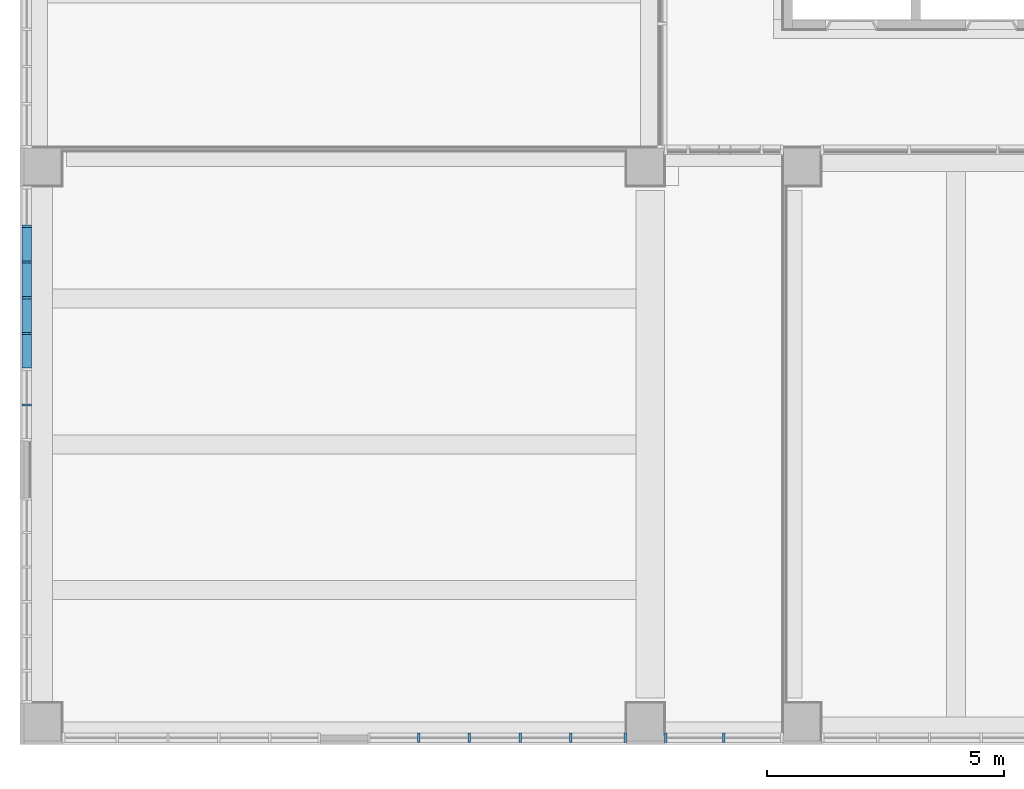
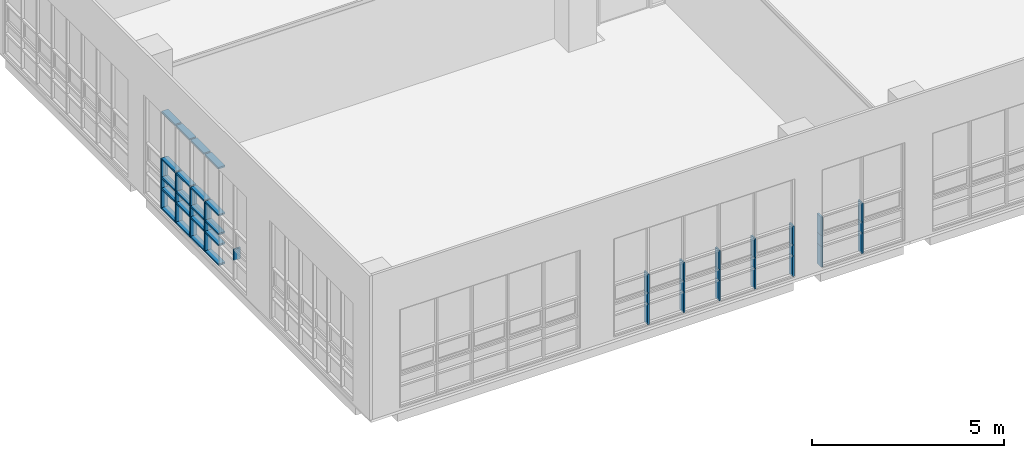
# One storey, part 14 of 74: 54 members, 3 elements without a shape of their own.
"""IFC2X3 building model written with IfcOpenShell, lengths in millimetres."""

from ifc_helpers import new_model, entity, si_unit, converted_unit, derived_unit, direction, frame, origin, origin_2d_with_axis, place, context, subcontext, project, spatial, rectangle, extrude, source, transform, mapped, material, type_object, type_shapes, element, aggregate, save


model = new_model("IFC2X3")

# Units and contexts
model_context = context("Model", 3, precision=0.01, world=origin(), true_north=direction((6.123031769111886e-17, 1.0)))
body_context = subcontext(model_context, "Body", "Model", "MODEL_VIEW")
ifc_project = project(units=[si_unit("LENGTHUNIT", "METRE", prefix="MILLI"), si_unit("AREAUNIT", "SQUARE_METRE"), si_unit("VOLUMEUNIT", "CUBIC_METRE"), converted_unit("PLANEANGLEUNIT", "DEGREE", entity("IfcRatioMeasure", 0.017453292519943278), si_unit("PLANEANGLEUNIT", "RADIAN"), dimensions=[0, 0, 0, 0, 0, 0, 0]), si_unit("MASSUNIT", "GRAM", prefix="KILO"), derived_unit("MASSDENSITYUNIT", [(si_unit("MASSUNIT", "GRAM", prefix="KILO"), 1), (si_unit("LENGTHUNIT", "METRE"), -3)]), derived_unit("MOMENTOFINERTIAUNIT", [(si_unit("LENGTHUNIT", "METRE"), 4)]), si_unit("TIMEUNIT", "SECOND"), si_unit("FREQUENCYUNIT", "HERTZ"), si_unit("THERMODYNAMICTEMPERATUREUNIT", "DEGREE_CELSIUS"), derived_unit("THERMALTRANSMITTANCEUNIT", [(si_unit("MASSUNIT", "GRAM", prefix="KILO"), 1), (si_unit("THERMODYNAMICTEMPERATUREUNIT", "KELVIN"), -1), (si_unit("TIMEUNIT", "SECOND"), -3)]), derived_unit("VOLUMETRICFLOWRATEUNIT", [(si_unit("LENGTHUNIT", "METRE"), 3), (si_unit("TIMEUNIT", "SECOND"), -1)]), derived_unit("MASSFLOWRATEUNIT", [(si_unit("MASSUNIT", "GRAM", prefix="KILO"), 1), (si_unit("TIMEUNIT", "SECOND"), -1)]), derived_unit("ROTATIONALFREQUENCYUNIT", [(si_unit("TIMEUNIT", "SECOND"), -1)]), si_unit("ELECTRICCURRENTUNIT", "AMPERE"), si_unit("ELECTRICVOLTAGEUNIT", "VOLT"), si_unit("POWERUNIT", "WATT"), si_unit("FORCEUNIT", "NEWTON", prefix="KILO"), si_unit("ILLUMINANCEUNIT", "LUX"), si_unit("LUMINOUSFLUXUNIT", "LUMEN"), si_unit("LUMINOUSINTENSITYUNIT", "CANDELA"), derived_unit("USERDEFINED", [(si_unit("MASSUNIT", "GRAM", prefix="KILO"), -1), (si_unit("LENGTHUNIT", "METRE"), -2), (si_unit("TIMEUNIT", "SECOND"), 3), (si_unit("LUMINOUSFLUXUNIT", "LUMEN"), 1)]), derived_unit("SOUNDPOWERUNIT", [(si_unit("MASSUNIT", "GRAM", prefix="KILO"), 1), (si_unit("LENGTHUNIT", "METRE"), 2), (si_unit("TIMEUNIT", "SECOND"), -3)]), derived_unit("SOUNDPRESSUREUNIT", [(si_unit("MASSUNIT", "GRAM", prefix="KILO"), 1), (si_unit("LENGTHUNIT", "METRE"), -1), (si_unit("TIMEUNIT", "SECOND"), -2)]), derived_unit("LINEARVELOCITYUNIT", [(si_unit("LENGTHUNIT", "METRE"), 1), (si_unit("TIMEUNIT", "SECOND"), -1)]), si_unit("PRESSUREUNIT", "PASCAL"), derived_unit("USERDEFINED", [(si_unit("LENGTHUNIT", "METRE"), -2), (si_unit("MASSUNIT", "GRAM", prefix="KILO"), 1), (si_unit("TIMEUNIT", "SECOND"), -2)]), derived_unit("LINEARFORCEUNIT", [(si_unit("MASSUNIT", "GRAM", prefix="KILO"), 1), (si_unit("LENGTHUNIT", "METRE"), 1), (si_unit("TIMEUNIT", "SECOND"), -2), (si_unit("LENGTHUNIT", "METRE"), -1)]), derived_unit("PLANARFORCEUNIT", [(si_unit("MASSUNIT", "GRAM", prefix="KILO"), 1), (si_unit("LENGTHUNIT", "METRE"), 1), (si_unit("TIMEUNIT", "SECOND"), -2), (si_unit("LENGTHUNIT", "METRE"), -2)])], contexts=[model_context])

# Site, building, storey
site_placement = place(None, frame((-14167.972527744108, -657.2125860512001, 0.0)))
site = spatial("IfcSite", under=ifc_project, at=site_placement, Name="Default", CompositionType="ELEMENT")
building_placement = place(site_placement, origin())
building = spatial("IfcBuilding", under=site, at=building_placement, Name="Sample Building", CompositionType="ELEMENT")
storey_placement = place(building_placement, frame((0.0, 0.0, 4800.0)))
storey = spatial("IfcBuildingStorey", under=building, at=storey_placement, Name="지상 2층", CompositionType="ELEMENT", Elevation=4800.000000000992)

# Curtain wall, member
curtain_wall_type = type_object("IfcCurtainWallType", Name="커튼월:CW112-스테인리스 스틸 커튼월", PredefinedType="NOTDEFINED")
curtain_wall_1_placement = place(storey_placement, frame((0.0, 0.0, -4800.0)))
curtain_wall_1 = element("IfcCurtainWall", 1, at=curtain_wall_1_placement, inside=storey, type_object=curtain_wall_type, Name="커튼월:CW112-스테인리스 스틸 커튼월", ObjectType="커튼월:CW112-스테인리스 스틸 커튼월")
ifc_material = material(Name="<Unnamed>")
member_type_1 = type_object("IfcMemberType", Name="직사각형 멀리언:CW200-직사각형 멀리언 50x200mm", PredefinedType="MULLION", material=ifc_material)
shared_shape_1 = source(origin(), body_context, "Body", "SweptSolid", [
    extrude(rectangle(XDim=200.0, YDim=50.0, at=origin_2d_with_axis()), frame((-25.0, 0.0, -650.0), z_axis=(0.0, 0.0, 1.0), x_axis=(0.0, -1.0, 0.0)), (0.0, 0.0, 1.0), 650.0000000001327),
])
type_shapes(member_type_1, [shared_shape_1])
member_1_placement = place(curtain_wall_1_placement, frame((26767.97249113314, 619.7122951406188, 4880.0), z_axis=(0.0, 0.0, -1.0), x_axis=(1.0, 0.0, 0.0)))
member_1 = element("IfcMember", 2, at=member_1_placement, type_object=member_type_1, material=ifc_material, Name="직사각형 멀리언:CW200-직사각형 멀리언 50x200mm", ObjectType="직사각형 멀리언:CW200-직사각형 멀리언 50x200mm", context=body_context, shape_type="MappedRepresentation", body=[
    mapped(shared_shape_1, transform((0.0, 0.0, 0.0), scale=1.0)),
])

# Curtain wall, members
curtain_wall_2_placement = place(storey_placement, frame((0.0, 0.0, -4800.0)))
curtain_wall_2 = element("IfcCurtainWall", 3, at=curtain_wall_2_placement, inside=storey, type_object=curtain_wall_type, Name="커튼월:CW112-스테인리스 스틸 커튼월", ObjectType="커튼월:CW112-스테인리스 스틸 커튼월")
member_type_2 = type_object("IfcMemberType", Name="직사각형 멀리언:CW200-직사각형 멀리언 50x200mm", PredefinedType="MULLION", material=ifc_material)
shared_shape_2 = source(origin(), body_context, "Body", "SweptSolid", [
    extrude(rectangle(XDim=200.0, YDim=50.0, at=origin_2d_with_axis()), frame((0.0, 0.0, -650.0), z_axis=(0.0, 0.0, 1.0), x_axis=(0.0, -1.0, 0.0)), (0.0, 0.0, 1.0), 650.0000000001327),
])
type_shapes(member_type_2, [shared_shape_2])
member_2_placement = place(curtain_wall_2_placement, frame((14130.472570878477, 11403.640846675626, 4880.0), z_axis=(0.0, 0.0, -1.0), x_axis=(0.0, -1.0, 0.0)))
member_2 = element("IfcMember", 4, at=member_2_placement, type_object=member_type_2, material=ifc_material, Name="직사각형 멀리언:CW200-직사각형 멀리언 50x200mm", ObjectType="직사각형 멀리언:CW200-직사각형 멀리언 50x200mm", context=body_context, shape_type="MappedRepresentation", body=[
    mapped(shared_shape_2, transform((0.0, 0.0, 0.0), scale=1.0)),
])
member_3_placement = place(curtain_wall_2_placement, frame((14130.472570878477, 10650.069418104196, 4880.0), z_axis=(0.0, 0.0, -1.0), x_axis=(0.0, -1.0, 0.0)))
member_3 = element("IfcMember", 5, at=member_3_placement, type_object=member_type_2, material=ifc_material, Name="직사각형 멀리언:CW200-직사각형 멀리언 50x200mm", ObjectType="직사각형 멀리언:CW200-직사각형 멀리언 50x200mm", context=body_context, shape_type="MappedRepresentation", body=[
    mapped(shared_shape_2, transform((0.0, 0.0, 0.0), scale=1.0)),
])
member_4_placement = place(curtain_wall_2_placement, frame((14130.472570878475, 9896.497989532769, 4880.0), z_axis=(0.0, 0.0, -1.0), x_axis=(0.0, -1.0, 0.0)))
member_4 = element("IfcMember", 6, at=member_4_placement, type_object=member_type_2, material=ifc_material, Name="직사각형 멀리언:CW200-직사각형 멀리언 50x200mm", ObjectType="직사각형 멀리언:CW200-직사각형 멀리언 50x200mm", context=body_context, shape_type="MappedRepresentation", body=[
    mapped(shared_shape_2, transform((0.0, 0.0, 0.0), scale=1.0)),
])
member_5_placement = place(curtain_wall_2_placement, frame((14130.472570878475, 9142.92656096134, 4880.0), z_axis=(0.0, 0.0, -1.0), x_axis=(0.0, -1.0, 0.0)))
member_5 = element("IfcMember", 7, at=member_5_placement, type_object=member_type_2, material=ifc_material, Name="직사각형 멀리언:CW200-직사각형 멀리언 50x200mm", ObjectType="직사각형 멀리언:CW200-직사각형 멀리언 50x200mm", context=body_context, shape_type="MappedRepresentation", body=[
    mapped(shared_shape_2, transform((0.0, 0.0, 0.0), scale=1.0)),
])

# Member
member_6_placement = place(curtain_wall_1_placement, frame((22387.857532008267, 619.712295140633, 4880.0), z_axis=(0.0, 0.0, -1.0), x_axis=(1.0, 0.0, 0.0)))
member_6 = element("IfcMember", 8, at=member_6_placement, type_object=member_type_2, material=ifc_material, Name="직사각형 멀리언:CW200-직사각형 멀리언 50x200mm", ObjectType="직사각형 멀리언:CW200-직사각형 멀리언 50x200mm", context=body_context, shape_type="MappedRepresentation", body=[
    mapped(shared_shape_2, transform((0.0, 0.0, 0.0), scale=1.0)),
])

member_7_placement = place(curtain_wall_1_placement, frame((23457.857532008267, 619.7122951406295, 4880.0), z_axis=(0.0, 0.0, -1.0), x_axis=(1.0, 0.0, 0.0)))
member_7 = element("IfcMember", 9, at=member_7_placement, type_object=member_type_2, material=ifc_material, Name="직사각형 멀리언:CW200-직사각형 멀리언 50x200mm", ObjectType="직사각형 멀리언:CW200-직사각형 멀리언 50x200mm", context=body_context, shape_type="MappedRepresentation", body=[
    mapped(shared_shape_2, transform((0.0, 0.0, 0.0), scale=1.0)),
])

member_8_placement = place(curtain_wall_1_placement, frame((24527.85753200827, 619.7122951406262, 4880.0), z_axis=(0.0, 0.0, -1.0), x_axis=(1.0, 0.0, 0.0)))
member_8 = element("IfcMember", 10, at=member_8_placement, type_object=member_type_2, material=ifc_material, Name="직사각형 멀리언:CW200-직사각형 멀리언 50x200mm", ObjectType="직사각형 멀리언:CW200-직사각형 멀리언 50x200mm", context=body_context, shape_type="MappedRepresentation", body=[
    mapped(shared_shape_2, transform((0.0, 0.0, 0.0), scale=1.0)),
])

member_9_placement = place(curtain_wall_1_placement, frame((25597.85753200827, 619.7122951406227, 4880.0), z_axis=(0.0, 0.0, -1.0), x_axis=(1.0, 0.0, 0.0)))
member_9 = element("IfcMember", 11, at=member_9_placement, type_object=member_type_2, material=ifc_material, Name="직사각형 멀리언:CW200-직사각형 멀리언 50x200mm", ObjectType="직사각형 멀리언:CW200-직사각형 멀리언 50x200mm", context=body_context, shape_type="MappedRepresentation", body=[
    mapped(shared_shape_2, transform((0.0, 0.0, 0.0), scale=1.0)),
])

# Curtain wall, members
curtain_wall_3_placement = place(storey_placement, frame((0.0, 0.0, -4800.0)))
curtain_wall_3 = element("IfcCurtainWall", 12, at=curtain_wall_3_placement, inside=storey, type_object=curtain_wall_type, Name="커튼월:CW112-스테인리스 스틸 커튼월", ObjectType="커튼월:CW112-스테인리스 스틸 커튼월")
member_10_placement = place(curtain_wall_3_placement, frame((28817.83938591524, 619.712295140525, 4880.0), z_axis=(0.0, 0.0, -1.0), x_axis=(1.0, 0.0, 0.0)))
member_10 = element("IfcMember", 13, at=member_10_placement, type_object=member_type_2, material=ifc_material, Name="직사각형 멀리언:CW200-직사각형 멀리언 50x200mm", ObjectType="직사각형 멀리언:CW200-직사각형 멀리언 50x200mm", context=body_context, shape_type="MappedRepresentation", body=[
    mapped(shared_shape_2, transform((0.0, 0.0, 0.0), scale=1.0)),
])
member_type_3 = type_object("IfcMemberType", Name="직사각형 멀리언:CW200-직사각형 멀리언 50x200mm", PredefinedType="MULLION", material=ifc_material)
shared_shape_3 = source(origin(), body_context, "Body", "SweptSolid", [
    extrude(rectangle(XDim=200.0, YDim=50.0, at=origin_2d_with_axis()), frame((-25.0, 0.0, -600.0), z_axis=(0.0, 0.0, 1.0), x_axis=(0.0, -1.0, 0.0)), (0.0, 0.0, 1.0), 600.0),
])
type_shapes(member_type_3, [shared_shape_3])
member_11_placement = place(curtain_wall_3_placement, frame((27567.97249113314, 619.7122951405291, 6480.0), z_axis=(0.0, 0.0, 1.0), x_axis=(-1.0, 0.0, 0.0)))
member_11 = element("IfcMember", 14, at=member_11_placement, type_object=member_type_3, material=ifc_material, Name="직사각형 멀리언:CW200-직사각형 멀리언 50x200mm", ObjectType="직사각형 멀리언:CW200-직사각형 멀리언 50x200mm", context=body_context, shape_type="MappedRepresentation", body=[
    mapped(shared_shape_3, transform((0.0, 0.0, 0.0), scale=1.0)),
])

# Member
member_type_4 = type_object("IfcMemberType", Name="직사각형 멀리언:CW200-직사각형 멀리언 50x200mm", PredefinedType="MULLION", material=ifc_material)
shared_shape_4 = source(origin(), body_context, "Body", "SweptSolid", [
    extrude(rectangle(XDim=200.0, YDim=50.0, at=origin_2d_with_axis()), frame((-25.0, 0.0, -600.0), z_axis=(0.0, 0.0, 1.0), x_axis=(0.0, -1.0, 0.0)), (0.0, 0.0, 1.0), 600.0),
])
type_shapes(member_type_4, [shared_shape_4])
member_12_placement = place(curtain_wall_1_placement, frame((26767.97249113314, 619.7122951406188, 5880.0), z_axis=(0.0, 0.0, -1.0), x_axis=(1.0, 0.0, 0.0)))
member_12 = element("IfcMember", 15, at=member_12_placement, type_object=member_type_4, material=ifc_material, Name="직사각형 멀리언:CW200-직사각형 멀리언 50x200mm", ObjectType="직사각형 멀리언:CW200-직사각형 멀리언 50x200mm", context=body_context, shape_type="MappedRepresentation", body=[
    mapped(shared_shape_4, transform((0.0, 0.0, 0.0), scale=1.0)),
])

member_type_5 = type_object("IfcMemberType", Name="직사각형 멀리언:CW200-직사각형 멀리언 50x200mm", PredefinedType="MULLION", material=ifc_material)
shared_shape_5 = source(origin(), body_context, "Body", "SweptSolid", [
    extrude(rectangle(XDim=200.0, YDim=50.0, at=origin_2d_with_axis()), frame((-25.0, 0.0, -350.0), z_axis=(0.0, 0.0, 1.0), x_axis=(0.0, -1.0, 0.0)), (0.0, 0.0, 1.0), 349.9999999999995),
])
type_shapes(member_type_5, [shared_shape_5])
member_13_placement = place(curtain_wall_3_placement, frame((27567.97249113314, 619.7122951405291, 5880.0), z_axis=(0.0, 0.0, 1.0), x_axis=(-1.0, 0.0, 0.0)))
member_13 = element("IfcMember", 16, at=member_13_placement, type_object=member_type_5, material=ifc_material, Name="직사각형 멀리언:CW200-직사각형 멀리언 50x200mm", ObjectType="직사각형 멀리언:CW200-직사각형 멀리언 50x200mm", context=body_context, shape_type="MappedRepresentation", body=[
    mapped(shared_shape_5, transform((0.0, 0.0, 0.0), scale=1.0)),
])

member_type_6 = type_object("IfcMemberType", Name="직사각형 멀리언:CW200-직사각형 멀리언 50x200mm", PredefinedType="MULLION", material=ifc_material)
shared_shape_6 = source(origin(), body_context, "Body", "SweptSolid", [
    extrude(rectangle(XDim=200.0, YDim=50.0, at=origin_2d_with_axis()), frame((0.0, 0.0, -600.0), z_axis=(0.0, 0.0, 1.0), x_axis=(0.0, -1.0, 0.0)), (0.0, 0.0, 1.0), 600.0),
])
type_shapes(member_type_6, [shared_shape_6])
member_14_placement = place(curtain_wall_2_placement, frame((14130.472570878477, 11403.640846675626, 5880.0), z_axis=(0.0, 0.0, -1.0), x_axis=(0.0, -1.0, 0.0)))
member_14 = element("IfcMember", 17, at=member_14_placement, type_object=member_type_6, material=ifc_material, Name="직사각형 멀리언:CW200-직사각형 멀리언 50x200mm", ObjectType="직사각형 멀리언:CW200-직사각형 멀리언 50x200mm", context=body_context, shape_type="MappedRepresentation", body=[
    mapped(shared_shape_6, transform((0.0, 0.0, 0.0), scale=1.0)),
])

member_15_placement = place(curtain_wall_2_placement, frame((14130.472570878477, 10650.069418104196, 5880.0), z_axis=(0.0, 0.0, -1.0), x_axis=(0.0, -1.0, 0.0)))
member_15 = element("IfcMember", 18, at=member_15_placement, type_object=member_type_6, material=ifc_material, Name="직사각형 멀리언:CW200-직사각형 멀리언 50x200mm", ObjectType="직사각형 멀리언:CW200-직사각형 멀리언 50x200mm", context=body_context, shape_type="MappedRepresentation", body=[
    mapped(shared_shape_6, transform((0.0, 0.0, 0.0), scale=1.0)),
])

member_16_placement = place(curtain_wall_2_placement, frame((14130.472570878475, 9896.497989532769, 5880.0), z_axis=(0.0, 0.0, -1.0), x_axis=(0.0, -1.0, 0.0)))
member_16 = element("IfcMember", 19, at=member_16_placement, type_object=member_type_6, material=ifc_material, Name="직사각형 멀리언:CW200-직사각형 멀리언 50x200mm", ObjectType="직사각형 멀리언:CW200-직사각형 멀리언 50x200mm", context=body_context, shape_type="MappedRepresentation", body=[
    mapped(shared_shape_6, transform((0.0, 0.0, 0.0), scale=1.0)),
])

member_17_placement = place(curtain_wall_2_placement, frame((14130.472570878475, 9142.92656096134, 5880.0), z_axis=(0.0, 0.0, -1.0), x_axis=(0.0, -1.0, 0.0)))
member_17 = element("IfcMember", 20, at=member_17_placement, type_object=member_type_6, material=ifc_material, Name="직사각형 멀리언:CW200-직사각형 멀리언 50x200mm", ObjectType="직사각형 멀리언:CW200-직사각형 멀리언 50x200mm", context=body_context, shape_type="MappedRepresentation", body=[
    mapped(shared_shape_6, transform((0.0, 0.0, 0.0), scale=1.0)),
])

member_18_placement = place(curtain_wall_1_placement, frame((22387.857532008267, 619.712295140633, 5880.0), z_axis=(0.0, 0.0, -1.0), x_axis=(1.0, 0.0, 0.0)))
member_18 = element("IfcMember", 21, at=member_18_placement, type_object=member_type_6, material=ifc_material, Name="직사각형 멀리언:CW200-직사각형 멀리언 50x200mm", ObjectType="직사각형 멀리언:CW200-직사각형 멀리언 50x200mm", context=body_context, shape_type="MappedRepresentation", body=[
    mapped(shared_shape_6, transform((0.0, 0.0, 0.0), scale=1.0)),
])

member_19_placement = place(curtain_wall_1_placement, frame((23457.857532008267, 619.7122951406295, 5880.0), z_axis=(0.0, 0.0, -1.0), x_axis=(1.0, 0.0, 0.0)))
member_19 = element("IfcMember", 22, at=member_19_placement, type_object=member_type_6, material=ifc_material, Name="직사각형 멀리언:CW200-직사각형 멀리언 50x200mm", ObjectType="직사각형 멀리언:CW200-직사각형 멀리언 50x200mm", context=body_context, shape_type="MappedRepresentation", body=[
    mapped(shared_shape_6, transform((0.0, 0.0, 0.0), scale=1.0)),
])

member_20_placement = place(curtain_wall_1_placement, frame((24527.85753200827, 619.7122951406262, 5880.0), z_axis=(0.0, 0.0, -1.0), x_axis=(1.0, 0.0, 0.0)))
member_20 = element("IfcMember", 23, at=member_20_placement, type_object=member_type_6, material=ifc_material, Name="직사각형 멀리언:CW200-직사각형 멀리언 50x200mm", ObjectType="직사각형 멀리언:CW200-직사각형 멀리언 50x200mm", context=body_context, shape_type="MappedRepresentation", body=[
    mapped(shared_shape_6, transform((0.0, 0.0, 0.0), scale=1.0)),
])

member_21_placement = place(curtain_wall_1_placement, frame((25597.85753200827, 619.7122951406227, 5880.0), z_axis=(0.0, 0.0, -1.0), x_axis=(1.0, 0.0, 0.0)))
member_21 = element("IfcMember", 24, at=member_21_placement, type_object=member_type_6, material=ifc_material, Name="직사각형 멀리언:CW200-직사각형 멀리언 50x200mm", ObjectType="직사각형 멀리언:CW200-직사각형 멀리언 50x200mm", context=body_context, shape_type="MappedRepresentation", body=[
    mapped(shared_shape_6, transform((0.0, 0.0, 0.0), scale=1.0)),
])

member_22_placement = place(curtain_wall_3_placement, frame((28817.83938591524, 619.712295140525, 5880.0), z_axis=(0.0, 0.0, -1.0), x_axis=(1.0, 0.0, 0.0)))
member_22 = element("IfcMember", 25, at=member_22_placement, type_object=member_type_6, material=ifc_material, Name="직사각형 멀리언:CW200-직사각형 멀리언 50x200mm", ObjectType="직사각형 멀리언:CW200-직사각형 멀리언 50x200mm", context=body_context, shape_type="MappedRepresentation", body=[
    mapped(shared_shape_6, transform((0.0, 0.0, 0.0), scale=1.0)),
])

member_type_7 = type_object("IfcMemberType", Name="직사각형 멀리언:CW200-직사각형 멀리언 50x200mm", PredefinedType="MULLION", material=ifc_material)
shared_shape_7 = source(origin(), body_context, "Body", "SweptSolid", [
    extrude(rectangle(XDim=200.0, YDim=50.0, at=origin_2d_with_axis()), frame((-25.0, 0.0, -350.0), z_axis=(0.0, 0.0, 1.0), x_axis=(0.0, -1.0, 0.0)), (0.0, 0.0, 1.0), 349.9999999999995),
])
type_shapes(member_type_7, [shared_shape_7])
member_23_placement = place(curtain_wall_1_placement, frame((26767.97249113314, 619.7122951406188, 5530.0), z_axis=(0.0, 0.0, -1.0), x_axis=(1.0, 0.0, 0.0)))
member_23 = element("IfcMember", 26, at=member_23_placement, type_object=member_type_7, material=ifc_material, Name="직사각형 멀리언:CW200-직사각형 멀리언 50x200mm", ObjectType="직사각형 멀리언:CW200-직사각형 멀리언 50x200mm", context=body_context, shape_type="MappedRepresentation", body=[
    mapped(shared_shape_7, transform((0.0, 0.0, 0.0), scale=1.0)),
])

member_type_8 = type_object("IfcMemberType", Name="직사각형 멀리언:CW200-직사각형 멀리언 50x200mm", PredefinedType="MULLION", material=ifc_material)
shared_shape_8 = source(origin(), body_context, "Body", "SweptSolid", [
    extrude(rectangle(XDim=200.0, YDim=50.0, at=origin_2d_with_axis()), frame((-25.0, 0.0, -650.0), z_axis=(0.0, 0.0, 1.0), x_axis=(0.0, -1.0, 0.0)), (0.0, 0.0, 1.0), 650.0000000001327),
])
type_shapes(member_type_8, [shared_shape_8])
member_24_placement = place(curtain_wall_3_placement, frame((27567.97249113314, 619.7122951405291, 5530.0), z_axis=(0.0, 0.0, 1.0), x_axis=(-1.0, 0.0, 0.0)))
member_24 = element("IfcMember", 27, at=member_24_placement, type_object=member_type_8, material=ifc_material, Name="직사각형 멀리언:CW200-직사각형 멀리언 50x200mm", ObjectType="직사각형 멀리언:CW200-직사각형 멀리언 50x200mm", context=body_context, shape_type="MappedRepresentation", body=[
    mapped(shared_shape_8, transform((0.0, 0.0, 0.0), scale=1.0)),
])

member_type_9 = type_object("IfcMemberType", Name="직사각형 멀리언:CW200-직사각형 멀리언 50x200mm", PredefinedType="MULLION", material=ifc_material)
shared_shape_9 = source(origin(), body_context, "Body", "SweptSolid", [
    extrude(rectangle(XDim=200.0, YDim=50.0, at=origin_2d_with_axis()), frame((0.0, 0.0, -350.0), z_axis=(0.0, 0.0, 1.0), x_axis=(0.0, -1.0, 0.0)), (0.0, 0.0, 1.0), 349.9999999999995),
])
type_shapes(member_type_9, [shared_shape_9])
member_25_placement = place(curtain_wall_2_placement, frame((14130.472570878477, 11403.640846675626, 5530.0), z_axis=(0.0, 0.0, -1.0), x_axis=(0.0, -1.0, 0.0)))
member_25 = element("IfcMember", 28, at=member_25_placement, type_object=member_type_9, material=ifc_material, Name="직사각형 멀리언:CW200-직사각형 멀리언 50x200mm", ObjectType="직사각형 멀리언:CW200-직사각형 멀리언 50x200mm", context=body_context, shape_type="MappedRepresentation", body=[
    mapped(shared_shape_9, transform((0.0, 0.0, 0.0), scale=1.0)),
])

member_26_placement = place(curtain_wall_2_placement, frame((14130.472570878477, 10650.069418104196, 5530.0), z_axis=(0.0, 0.0, -1.0), x_axis=(0.0, -1.0, 0.0)))
member_26 = element("IfcMember", 29, at=member_26_placement, type_object=member_type_9, material=ifc_material, Name="직사각형 멀리언:CW200-직사각형 멀리언 50x200mm", ObjectType="직사각형 멀리언:CW200-직사각형 멀리언 50x200mm", context=body_context, shape_type="MappedRepresentation", body=[
    mapped(shared_shape_9, transform((0.0, 0.0, 0.0), scale=1.0)),
])

member_27_placement = place(curtain_wall_2_placement, frame((14130.472570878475, 9896.497989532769, 5530.0), z_axis=(0.0, 0.0, -1.0), x_axis=(0.0, -1.0, 0.0)))
member_27 = element("IfcMember", 30, at=member_27_placement, type_object=member_type_9, material=ifc_material, Name="직사각형 멀리언:CW200-직사각형 멀리언 50x200mm", ObjectType="직사각형 멀리언:CW200-직사각형 멀리언 50x200mm", context=body_context, shape_type="MappedRepresentation", body=[
    mapped(shared_shape_9, transform((0.0, 0.0, 0.0), scale=1.0)),
])

member_28_placement = place(curtain_wall_2_placement, frame((14130.472570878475, 9142.92656096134, 5530.0), z_axis=(0.0, 0.0, -1.0), x_axis=(0.0, -1.0, 0.0)))
member_28 = element("IfcMember", 31, at=member_28_placement, type_object=member_type_9, material=ifc_material, Name="직사각형 멀리언:CW200-직사각형 멀리언 50x200mm", ObjectType="직사각형 멀리언:CW200-직사각형 멀리언 50x200mm", context=body_context, shape_type="MappedRepresentation", body=[
    mapped(shared_shape_9, transform((0.0, 0.0, 0.0), scale=1.0)),
])

member_29_placement = place(curtain_wall_2_placement, frame((14130.472570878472, 7635.783703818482, 5530.0), z_axis=(0.0, 0.0, -1.0), x_axis=(0.0, -1.0, 0.0)))
member_29 = element("IfcMember", 32, at=member_29_placement, type_object=member_type_9, material=ifc_material, Name="직사각형 멀리언:CW200-직사각형 멀리언 50x200mm", ObjectType="직사각형 멀리언:CW200-직사각형 멀리언 50x200mm", context=body_context, shape_type="MappedRepresentation", body=[
    mapped(shared_shape_9, transform((0.0, 0.0, 0.0), scale=1.0)),
])

member_30_placement = place(curtain_wall_1_placement, frame((22387.857532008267, 619.712295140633, 5530.0), z_axis=(0.0, 0.0, -1.0), x_axis=(1.0, 0.0, 0.0)))
member_30 = element("IfcMember", 33, at=member_30_placement, type_object=member_type_9, material=ifc_material, Name="직사각형 멀리언:CW200-직사각형 멀리언 50x200mm", ObjectType="직사각형 멀리언:CW200-직사각형 멀리언 50x200mm", context=body_context, shape_type="MappedRepresentation", body=[
    mapped(shared_shape_9, transform((0.0, 0.0, 0.0), scale=1.0)),
])

member_31_placement = place(curtain_wall_1_placement, frame((23457.857532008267, 619.7122951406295, 5530.0), z_axis=(0.0, 0.0, -1.0), x_axis=(1.0, 0.0, 0.0)))
member_31 = element("IfcMember", 34, at=member_31_placement, type_object=member_type_9, material=ifc_material, Name="직사각형 멀리언:CW200-직사각형 멀리언 50x200mm", ObjectType="직사각형 멀리언:CW200-직사각형 멀리언 50x200mm", context=body_context, shape_type="MappedRepresentation", body=[
    mapped(shared_shape_9, transform((0.0, 0.0, 0.0), scale=1.0)),
])

member_32_placement = place(curtain_wall_1_placement, frame((24527.85753200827, 619.7122951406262, 5530.0), z_axis=(0.0, 0.0, -1.0), x_axis=(1.0, 0.0, 0.0)))
member_32 = element("IfcMember", 35, at=member_32_placement, type_object=member_type_9, material=ifc_material, Name="직사각형 멀리언:CW200-직사각형 멀리언 50x200mm", ObjectType="직사각형 멀리언:CW200-직사각형 멀리언 50x200mm", context=body_context, shape_type="MappedRepresentation", body=[
    mapped(shared_shape_9, transform((0.0, 0.0, 0.0), scale=1.0)),
])

member_33_placement = place(curtain_wall_1_placement, frame((25597.85753200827, 619.7122951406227, 5530.0), z_axis=(0.0, 0.0, -1.0), x_axis=(1.0, 0.0, 0.0)))
member_33 = element("IfcMember", 36, at=member_33_placement, type_object=member_type_9, material=ifc_material, Name="직사각형 멀리언:CW200-직사각형 멀리언 50x200mm", ObjectType="직사각형 멀리언:CW200-직사각형 멀리언 50x200mm", context=body_context, shape_type="MappedRepresentation", body=[
    mapped(shared_shape_9, transform((0.0, 0.0, 0.0), scale=1.0)),
])

aggregate(curtain_wall_1, [member_1, member_6, member_7, member_8, member_9, member_12, member_18, member_19, member_20, member_21, member_23, member_30, member_31, member_32, member_33])

member_34_placement = place(curtain_wall_3_placement, frame((28817.83938591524, 619.712295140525, 5530.0), z_axis=(0.0, 0.0, -1.0), x_axis=(1.0, 0.0, 0.0)))
member_34 = element("IfcMember", 37, at=member_34_placement, type_object=member_type_9, material=ifc_material, Name="직사각형 멀리언:CW200-직사각형 멀리언 50x200mm", ObjectType="직사각형 멀리언:CW200-직사각형 멀리언 50x200mm", context=body_context, shape_type="MappedRepresentation", body=[
    mapped(shared_shape_9, transform((0.0, 0.0, 0.0), scale=1.0)),
])

aggregate(curtain_wall_3, [member_10, member_11, member_13, member_22, member_24, member_34])

member_type_10 = type_object("IfcMemberType", Name="직사각형 멀리언:CW200-직사각형 멀리언 50x200mm", PredefinedType="MULLION", material=ifc_material)
shared_shape_10 = source(origin(), body_context, "Body", "SweptSolid", [
    extrude(rectangle(XDim=200.0, YDim=50.0, at=origin_2d_with_axis()), frame((-25.0, 0.0, -703.5714285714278), z_axis=(0.0, 0.0, 1.0), x_axis=(0.0, -1.0, 0.0)), (0.0, 0.0, 1.0), 703.5714285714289),
])
type_shapes(member_type_10, [shared_shape_10])
member_35_placement = place(curtain_wall_2_placement, frame((14130.472570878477, 11378.640846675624, 4880.0), z_axis=(0.0, 1.0, 0.0), x_axis=(0.0, 0.0, -1.0)))
member_35 = element("IfcMember", 38, at=member_35_placement, type_object=member_type_10, material=ifc_material, Name="직사각형 멀리언:CW200-직사각형 멀리언 50x200mm", ObjectType="직사각형 멀리언:CW200-직사각형 멀리언 50x200mm", context=body_context, shape_type="MappedRepresentation", body=[
    mapped(shared_shape_10, transform((0.0, 0.0, 0.0), scale=1.0)),
])

member_36_placement = place(curtain_wall_2_placement, frame((14130.472570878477, 10625.069418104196, 4880.0), z_axis=(0.0, 1.0, 0.0), x_axis=(0.0, 0.0, -1.0)))
member_36 = element("IfcMember", 39, at=member_36_placement, type_object=member_type_10, material=ifc_material, Name="직사각형 멀리언:CW200-직사각형 멀리언 50x200mm", ObjectType="직사각형 멀리언:CW200-직사각형 멀리언 50x200mm", context=body_context, shape_type="MappedRepresentation", body=[
    mapped(shared_shape_10, transform((0.0, 0.0, 0.0), scale=1.0)),
])

member_37_placement = place(curtain_wall_2_placement, frame((14130.472570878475, 9871.497989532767, 4880.0), z_axis=(0.0, 1.0, 0.0), x_axis=(0.0, 0.0, -1.0)))
member_37 = element("IfcMember", 40, at=member_37_placement, type_object=member_type_10, material=ifc_material, Name="직사각형 멀리언:CW200-직사각형 멀리언 50x200mm", ObjectType="직사각형 멀리언:CW200-직사각형 멀리언 50x200mm", context=body_context, shape_type="MappedRepresentation", body=[
    mapped(shared_shape_10, transform((0.0, 0.0, 0.0), scale=1.0)),
])

member_38_placement = place(curtain_wall_2_placement, frame((14130.472570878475, 9117.92656096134, 4880.0), z_axis=(0.0, 1.0, 0.0), x_axis=(0.0, 0.0, -1.0)))
member_38 = element("IfcMember", 41, at=member_38_placement, type_object=member_type_10, material=ifc_material, Name="직사각형 멀리언:CW200-직사각형 멀리언 50x200mm", ObjectType="직사각형 멀리언:CW200-직사각형 멀리언 50x200mm", context=body_context, shape_type="MappedRepresentation", body=[
    mapped(shared_shape_10, transform((0.0, 0.0, 0.0), scale=1.0)),
])

member_type_11 = type_object("IfcMemberType", Name="직사각형 멀리언:CW200-직사각형 멀리언 50x200mm", PredefinedType="MULLION", material=ifc_material)
shared_shape_11 = source(origin(), body_context, "Body", "SweptSolid", [
    extrude(rectangle(XDim=200.0, YDim=50.0, at=origin_2d_with_axis()), frame((-25.0, 0.0, -703.5714285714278), z_axis=(0.0, 0.0, 1.0), x_axis=(0.0, -1.0, 0.0)), (0.0, 0.0, 1.0), 703.5714285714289),
])
type_shapes(member_type_11, [shared_shape_11])
member_39_placement = place(curtain_wall_2_placement, frame((14130.472570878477, 10675.069418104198, 8000.0), z_axis=(0.0, -1.0, 0.0), x_axis=(0.0, 0.0, 1.0)))
member_39 = element("IfcMember", 42, at=member_39_placement, type_object=member_type_11, material=ifc_material, Name="직사각형 멀리언:CW200-직사각형 멀리언 50x200mm", ObjectType="직사각형 멀리언:CW200-직사각형 멀리언 50x200mm", context=body_context, shape_type="MappedRepresentation", body=[
    mapped(shared_shape_11, transform((0.0, 0.0, 0.0), scale=1.0)),
])

member_40_placement = place(curtain_wall_2_placement, frame((14130.472570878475, 9921.497989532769, 8000.0), z_axis=(0.0, -1.0, 0.0), x_axis=(0.0, 0.0, 1.0)))
member_40 = element("IfcMember", 43, at=member_40_placement, type_object=member_type_11, material=ifc_material, Name="직사각형 멀리언:CW200-직사각형 멀리언 50x200mm", ObjectType="직사각형 멀리언:CW200-직사각형 멀리언 50x200mm", context=body_context, shape_type="MappedRepresentation", body=[
    mapped(shared_shape_11, transform((0.0, 0.0, 0.0), scale=1.0)),
])

member_41_placement = place(curtain_wall_2_placement, frame((14130.472570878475, 9167.92656096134, 8000.0), z_axis=(0.0, -1.0, 0.0), x_axis=(0.0, 0.0, 1.0)))
member_41 = element("IfcMember", 44, at=member_41_placement, type_object=member_type_11, material=ifc_material, Name="직사각형 멀리언:CW200-직사각형 멀리언 50x200mm", ObjectType="직사각형 멀리언:CW200-직사각형 멀리언 50x200mm", context=body_context, shape_type="MappedRepresentation", body=[
    mapped(shared_shape_11, transform((0.0, 0.0, 0.0), scale=1.0)),
])

member_42_placement = place(curtain_wall_2_placement, frame((14130.472570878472, 8414.35513238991, 8000.0), z_axis=(0.0, -1.0, 0.0), x_axis=(0.0, 0.0, 1.0)))
member_42 = element("IfcMember", 45, at=member_42_placement, type_object=member_type_11, material=ifc_material, Name="직사각형 멀리언:CW200-직사각형 멀리언 50x200mm", ObjectType="직사각형 멀리언:CW200-직사각형 멀리언 50x200mm", context=body_context, shape_type="MappedRepresentation", body=[
    mapped(shared_shape_11, transform((0.0, 0.0, 0.0), scale=1.0)),
])

member_type_12 = type_object("IfcMemberType", Name="직사각형 멀리언:CW200-직사각형 멀리언 50x200mm", PredefinedType="MULLION", material=ifc_material)
shared_shape_12 = source(origin(), body_context, "Body", "SweptSolid", [
    extrude(rectangle(XDim=200.0, YDim=50.0, at=origin_2d_with_axis()), frame((0.0, 0.0, -703.5714285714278), z_axis=(0.0, 0.0, 1.0), x_axis=(0.0, -1.0, 0.0)), (0.0, 0.0, 1.0), 703.5714285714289),
])
type_shapes(member_type_12, [shared_shape_12])
member_43_placement = place(curtain_wall_2_placement, frame((14130.472570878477, 10675.069418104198, 6480.0), z_axis=(0.0, -1.0, 0.0), x_axis=(0.0, 0.0, 1.0)))
member_43 = element("IfcMember", 46, at=member_43_placement, type_object=member_type_12, material=ifc_material, Name="직사각형 멀리언:CW200-직사각형 멀리언 50x200mm", ObjectType="직사각형 멀리언:CW200-직사각형 멀리언 50x200mm", context=body_context, shape_type="MappedRepresentation", body=[
    mapped(shared_shape_12, transform((0.0, 0.0, 0.0), scale=1.0)),
])

member_44_placement = place(curtain_wall_2_placement, frame((14130.472570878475, 9921.497989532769, 6480.0), z_axis=(0.0, -1.0, 0.0), x_axis=(0.0, 0.0, 1.0)))
member_44 = element("IfcMember", 47, at=member_44_placement, type_object=member_type_12, material=ifc_material, Name="직사각형 멀리언:CW200-직사각형 멀리언 50x200mm", ObjectType="직사각형 멀리언:CW200-직사각형 멀리언 50x200mm", context=body_context, shape_type="MappedRepresentation", body=[
    mapped(shared_shape_12, transform((0.0, 0.0, 0.0), scale=1.0)),
])

member_45_placement = place(curtain_wall_2_placement, frame((14130.472570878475, 9167.92656096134, 6480.0), z_axis=(0.0, -1.0, 0.0), x_axis=(0.0, 0.0, 1.0)))
member_45 = element("IfcMember", 48, at=member_45_placement, type_object=member_type_12, material=ifc_material, Name="직사각형 멀리언:CW200-직사각형 멀리언 50x200mm", ObjectType="직사각형 멀리언:CW200-직사각형 멀리언 50x200mm", context=body_context, shape_type="MappedRepresentation", body=[
    mapped(shared_shape_12, transform((0.0, 0.0, 0.0), scale=1.0)),
])

member_46_placement = place(curtain_wall_2_placement, frame((14130.472570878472, 8414.35513238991, 6480.0), z_axis=(0.0, -1.0, 0.0), x_axis=(0.0, 0.0, 1.0)))
member_46 = element("IfcMember", 49, at=member_46_placement, type_object=member_type_12, material=ifc_material, Name="직사각형 멀리언:CW200-직사각형 멀리언 50x200mm", ObjectType="직사각형 멀리언:CW200-직사각형 멀리언 50x200mm", context=body_context, shape_type="MappedRepresentation", body=[
    mapped(shared_shape_12, transform((0.0, 0.0, 0.0), scale=1.0)),
])

member_47_placement = place(curtain_wall_2_placement, frame((14130.472570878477, 10675.069418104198, 5880.0), z_axis=(0.0, -1.0, 0.0), x_axis=(0.0, 0.0, 1.0)))
member_47 = element("IfcMember", 50, at=member_47_placement, type_object=member_type_12, material=ifc_material, Name="직사각형 멀리언:CW200-직사각형 멀리언 50x200mm", ObjectType="직사각형 멀리언:CW200-직사각형 멀리언 50x200mm", context=body_context, shape_type="MappedRepresentation", body=[
    mapped(shared_shape_12, transform((0.0, 0.0, 0.0), scale=1.0)),
])

member_48_placement = place(curtain_wall_2_placement, frame((14130.472570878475, 9921.497989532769, 5880.0), z_axis=(0.0, -1.0, 0.0), x_axis=(0.0, 0.0, 1.0)))
member_48 = element("IfcMember", 51, at=member_48_placement, type_object=member_type_12, material=ifc_material, Name="직사각형 멀리언:CW200-직사각형 멀리언 50x200mm", ObjectType="직사각형 멀리언:CW200-직사각형 멀리언 50x200mm", context=body_context, shape_type="MappedRepresentation", body=[
    mapped(shared_shape_12, transform((0.0, 0.0, 0.0), scale=1.0)),
])

member_49_placement = place(curtain_wall_2_placement, frame((14130.472570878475, 9167.92656096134, 5880.0), z_axis=(0.0, -1.0, 0.0), x_axis=(0.0, 0.0, 1.0)))
member_49 = element("IfcMember", 52, at=member_49_placement, type_object=member_type_12, material=ifc_material, Name="직사각형 멀리언:CW200-직사각형 멀리언 50x200mm", ObjectType="직사각형 멀리언:CW200-직사각형 멀리언 50x200mm", context=body_context, shape_type="MappedRepresentation", body=[
    mapped(shared_shape_12, transform((0.0, 0.0, 0.0), scale=1.0)),
])

member_50_placement = place(curtain_wall_2_placement, frame((14130.472570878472, 8414.35513238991, 5880.0), z_axis=(0.0, -1.0, 0.0), x_axis=(0.0, 0.0, 1.0)))
member_50 = element("IfcMember", 53, at=member_50_placement, type_object=member_type_12, material=ifc_material, Name="직사각형 멀리언:CW200-직사각형 멀리언 50x200mm", ObjectType="직사각형 멀리언:CW200-직사각형 멀리언 50x200mm", context=body_context, shape_type="MappedRepresentation", body=[
    mapped(shared_shape_12, transform((0.0, 0.0, 0.0), scale=1.0)),
])

member_51_placement = place(curtain_wall_2_placement, frame((14130.472570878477, 10675.069418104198, 5530.0), z_axis=(0.0, -1.0, 0.0), x_axis=(0.0, 0.0, 1.0)))
member_51 = element("IfcMember", 54, at=member_51_placement, type_object=member_type_12, material=ifc_material, Name="직사각형 멀리언:CW200-직사각형 멀리언 50x200mm", ObjectType="직사각형 멀리언:CW200-직사각형 멀리언 50x200mm", context=body_context, shape_type="MappedRepresentation", body=[
    mapped(shared_shape_12, transform((0.0, 0.0, 0.0), scale=1.0)),
])

member_52_placement = place(curtain_wall_2_placement, frame((14130.472570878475, 9921.497989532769, 5530.0), z_axis=(0.0, -1.0, 0.0), x_axis=(0.0, 0.0, 1.0)))
member_52 = element("IfcMember", 55, at=member_52_placement, type_object=member_type_12, material=ifc_material, Name="직사각형 멀리언:CW200-직사각형 멀리언 50x200mm", ObjectType="직사각형 멀리언:CW200-직사각형 멀리언 50x200mm", context=body_context, shape_type="MappedRepresentation", body=[
    mapped(shared_shape_12, transform((0.0, 0.0, 0.0), scale=1.0)),
])

member_53_placement = place(curtain_wall_2_placement, frame((14130.472570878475, 9167.92656096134, 5530.0), z_axis=(0.0, -1.0, 0.0), x_axis=(0.0, 0.0, 1.0)))
member_53 = element("IfcMember", 56, at=member_53_placement, type_object=member_type_12, material=ifc_material, Name="직사각형 멀리언:CW200-직사각형 멀리언 50x200mm", ObjectType="직사각형 멀리언:CW200-직사각형 멀리언 50x200mm", context=body_context, shape_type="MappedRepresentation", body=[
    mapped(shared_shape_12, transform((0.0, 0.0, 0.0), scale=1.0)),
])

member_54_placement = place(curtain_wall_2_placement, frame((14130.472570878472, 8414.35513238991, 5530.0), z_axis=(0.0, -1.0, 0.0), x_axis=(0.0, 0.0, 1.0)))
member_54 = element("IfcMember", 57, at=member_54_placement, type_object=member_type_12, material=ifc_material, Name="직사각형 멀리언:CW200-직사각형 멀리언 50x200mm", ObjectType="직사각형 멀리언:CW200-직사각형 멀리언 50x200mm", context=body_context, shape_type="MappedRepresentation", body=[
    mapped(shared_shape_12, transform((0.0, 0.0, 0.0), scale=1.0)),
])

aggregate(curtain_wall_2, [member_35, member_2, member_39, member_36, member_3, member_40, member_37, member_4, member_41, member_38, member_5, member_43, member_44, member_45, member_46, member_42, member_47, member_48, member_49, member_50, member_14, member_15, member_16, member_17, member_51, member_52, member_53, member_54, member_25, member_26, member_27, member_28, member_29])

save(model, "model.ifc")
